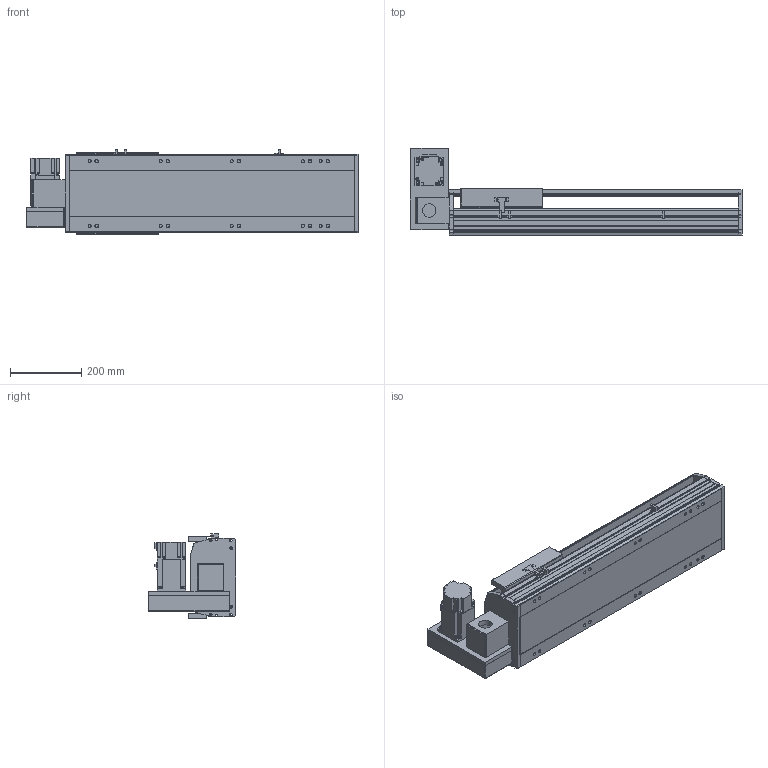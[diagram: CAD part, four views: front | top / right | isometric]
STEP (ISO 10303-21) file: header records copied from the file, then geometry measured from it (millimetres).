
FILE_DESCRIPTION(/* description */ ('STEP AP214'),/* implementation_level */ '2;1');
FILE_NAME(/* name */ 'PBS220-P40-S450-LU-T75-C1-N(0)',/* time_stamp */ '2022-06-13T02:29:01+02:00',/* author */ ('License CC BY-ND 4.0'),/* organization */ ('CADENAS'),/* preprocessor_version */ 'ST-DEVELOPER v18.102',/* originating_system */ 'PARTsolutions',/* authorisation */ ' ');
FILE_SCHEMA (('AUTOMOTIVE_DESIGN {1 0 10303 214 3 1 1}'));
Length unit declared in the file: millimetre
Products named in the file (7): PBS220-P40-S450-LU-T75-C1-N(0); PBS220_sensor; PBS220_plant; PBS220_sliser; T75-p1; PBS220T-LU_motors; PBS220-S450()_body
Assembly tree (8 placements, depth 2):
  PBS220-P40-S450-LU-T75-C1-N(0)
    PBS220_sensor  x3
    PBS220_plant
    PBS220_sliser
    T75-p1
    PBS220T-LU_motors
    PBS220-S450()_body
Bounding box: 934 x 247 x 238.5 mm (x, y, z)
Volume: 14045531.7 mm3; surface area: 1471473.8 mm2
Topology: 8 solids, 8 shells, 878 faces, 2312 edges, 1504 vertices
Faces by surface type: plane 586, cylinder 258, cone 34
Full cylindrical faces by diameter (mm): 2.013 x4, 4.5 x14, 4.917 x4, 6 x7, 6.647 x8, 8 x10, 8.376 x10, 8.5 x10, 10 x6, 14 x10, 38 x2, 40 x1, 70 x1
Entity records: 24693 total; most frequent: CARTESIAN_POINT 4294, DIRECTION 4293, ORIENTED_EDGE 3998, EDGE_CURVE 1999, AXIS2_PLACEMENT_3D 1477, VERTEX_POINT 1368, LINE 1339, VECTOR 1339
